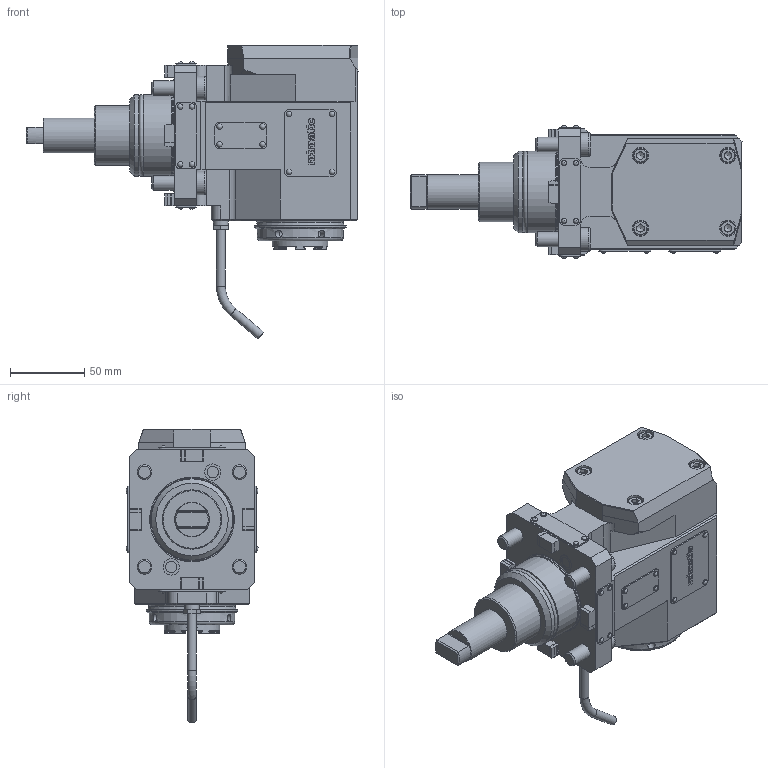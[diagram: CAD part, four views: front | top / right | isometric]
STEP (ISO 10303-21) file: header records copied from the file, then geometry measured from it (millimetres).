
FILE_DESCRIPTION(/* description */ (''),/* implementation_level */ '2;1');
FILE_NAME(/* name */ '190456-UNI',/* time_stamp */ '2022-12-15T08:38:26+01:00',/* author */ (''),/* organization */ (''),/* preprocessor_version */ 'ST-DEVELOPER v16.5',/* originating_system */ 'HiCAD 2017 2201.0 Build 268',/* authorisation */ '');
FILE_SCHEMA (('AUTOMOTIVE_DESIGN { 1 0 10303 214 1 1 1 1 }'));
Products named in the file (2): Root; Teil
Assembly tree (1 placements, depth 2):
  Root
    Teil
Bounding box: 224 x 89.6 x 198.21 mm (x, y, z)
Volume: 1124916.5 mm3; surface area: 109947.2 mm2
Topology: 1 solids, 25 shells, 974 faces, 2427 edges, 1590 vertices
Faces by surface type: plane 656, cylinder 204, cone 41, torus 29, sphere 24, bspline 20
Full cylindrical faces by diameter (mm): 2 x24, 2.2 x8, 2.3 x16, 4 x2, 5.1 x6, 6 x2, 7.65 x2, 8 x1, 10 x9, 11 x4, 11.01 x2, 16 x4, 20 x1, 23.5 x2, 24 x1, 27 x2, 29 x1, 29.4 x1, 35 x1, 37.5 x1, 38 x1, 38.5 x2, 40 x1, 40.501 x1, 49.6 x2, 54.5 x1, 54.9 x2, 55 x1, 55.8 x1, 58 x1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
Entity records: 56400 total; most frequent: CARTESIAN_POINT 12866, DIRECTION 4517, PRESENTATION_STYLE_ASSIGNMENT 4321, COLOUR_RGB 4321, DRAUGHTING_PRE_DEFINED_CURVE_FONT 4320, CURVE_STYLE 4320, OVER_RIDING_STYLED_ITEM 4320, ORIENTED_EDGE 4320
